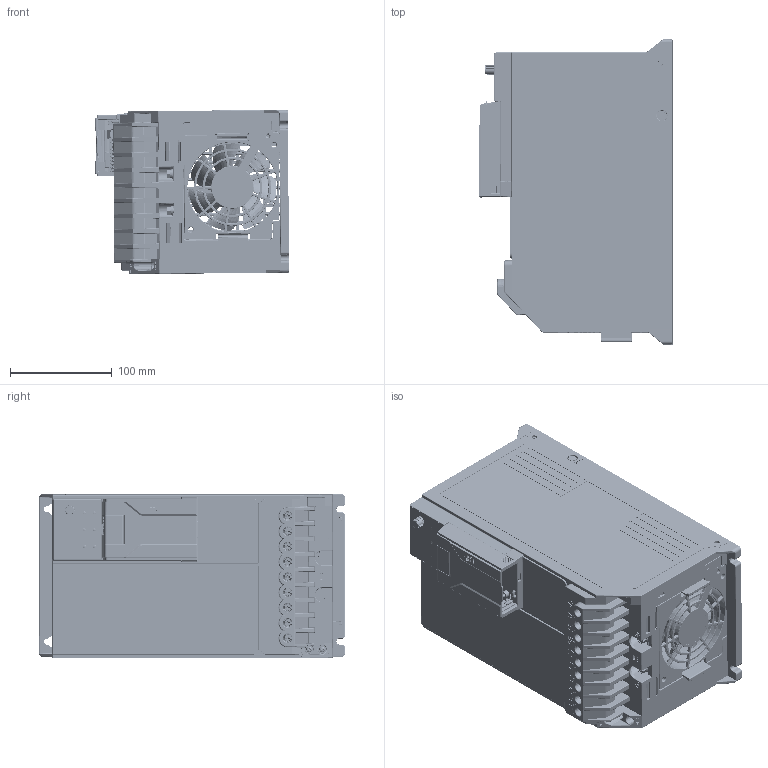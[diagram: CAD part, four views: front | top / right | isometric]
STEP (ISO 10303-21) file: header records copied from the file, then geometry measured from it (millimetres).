
FILE_DESCRIPTION((''),'2;1');
FILE_NAME('GD28_3PH_E00_ASM','2025-09-11T15:41:17',('Administrator'),(''),'CREO PARAMETRIC BY PTC INC, 2019080','CREO PARAMETRIC BY PTC INC, 2019080','');
FILE_SCHEMA(('CONFIG_CONTROL_DESIGN'));
Products named in the file (3): GD28_3PH_E_100; 40810244; GD28_3PH_E00_ASM
Assembly tree (2 placements, depth 2):
  GD28_3PH_E00_ASM
    GD28_3PH_E_100
    40810244
Bounding box: 190.68 x 300 x 161.2 mm (x, y, z)
Volume: 151898.5 mm3; surface area: 735177 mm2
Topology: 15 solids, 29 shells, 17625 faces, 49576 edges, 32067 vertices
Faces by surface type: plane 10821, cylinder 3723, extrusion 1303, torus 744, cone 462, bspline 424, sphere 148
Full cylindrical faces by diameter (mm): 2.571 x1
Entity records: 630593 total; most frequent: CARTESIAN_POINT 182177, ORIENTED_EDGE 98408, DIRECTION 84542, EDGE_CURVE 49429, VECTOR 35964, LINE 34661, VERTEX_POINT 32070, AXIS2_PLACEMENT_3D 24289
